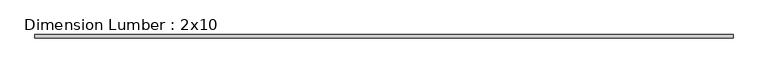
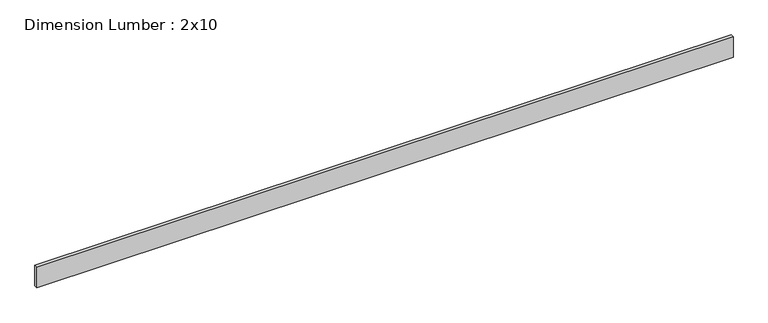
"""IFC4 building model written with IfcOpenShell, lengths in millimetres: beam geometry, Dimension Lumber : 2x10."""

import ifcopenshell
import ifcopenshell.guid

model = None  # the IFC model being written
_history = None  # IfcOwnerHistory: only IFC2X3 demands one
_inside = {}  # id of a spatial element -> (the spatial element, [elements in it])
_under = {}  # id of a project, library or spatial element -> (it, [spatial elements below it])
_declared = {}  # id of a project -> (the project, [libraries it declares])
_typed = {}  # id of a type object -> (the type object, [elements of that type])
_made_of = {}  # id of a material, layer set ... -> (it, [elements and type objects made of it])


def new_model(schema):
    """Start an empty IFC model of exactly this schema.

    Asked for "IFC4X3", IfcOpenShell would pick the latest addendum, in which some entities
    have other attributes; the version numbers below select the first issue.
    IFC2X3 requires an IfcOwnerHistory on every rooted entity: one is made here for all.
    """
    global model, _history
    if schema == "IFC4X3":
        model = ifcopenshell.file(schema_version=(4, 3, 0, 0))
    else:
        model = ifcopenshell.file(schema=schema)
    _inside.clear()
    _under.clear()
    _declared.clear()
    _typed.clear()
    _made_of.clear()
    _history = None
    if model.schema == "IFC2X3":
        org = make("IfcOrganization", Name="unknown")
        user = make(
            "IfcPersonAndOrganization",
            ThePerson=make("IfcPerson", FamilyName="unknown"),
            TheOrganization=org,
        )
        app = make(
            "IfcApplication",
            ApplicationDeveloper=org,
            Version="unknown",
            ApplicationFullName="unknown",
            ApplicationIdentifier="unknown",
        )
        _history = make(
            "IfcOwnerHistory",
            OwningUser=user,
            OwningApplication=app,
            ChangeAction="ADDED",
            CreationDate=0,
        )
    return model


def make(cls, **values):
    """One entity of the class cls with the attributes given. An attribute that is None is left unset."""
    return model.create_entity(
        cls, **{name: value for name, value in values.items() if value is not None}
    )


def rooted(cls, **values):
    """An entity with a GlobalId (a new one), such as an element, a storey or a relation."""
    return make(cls, GlobalId=ifcopenshell.guid.new(), OwnerHistory=_history, **values)


def si_unit(unit_type, name, prefix=None):
    """IfcSIUnit, for example si_unit("LENGTHUNIT", "METRE", prefix="MILLI")."""
    return make("IfcSIUnit", UnitType=unit_type, Prefix=prefix, Name=name)


def assignment(units):
    """IfcUnitAssignment: the units of a project."""
    return None if units is None else make("IfcUnitAssignment", Units=units)


def point(xyz):
    """IfcCartesianPoint."""
    return None if xyz is None else make("IfcCartesianPoint", Coordinates=xyz)


def direction(xyz):
    """IfcDirection."""
    return None if xyz is None else make("IfcDirection", DirectionRatios=xyz)


def frame(location, z_axis=None, x_axis=None):
    """IfcAxis2Placement3D, a coordinate frame: its origin and axes. An axis left out is left unset."""
    return make(
        "IfcAxis2Placement3D",
        Location=point(location),
        Axis=direction(z_axis),
        RefDirection=direction(x_axis),
    )


def origin():
    """The frame at (0, 0, 0) with its axes left unset."""
    return frame((0.0, 0.0, 0.0))


def place(relative_to, where):
    """IfcLocalPlacement: puts the frame where relative to a parent placement (None: the world)."""
    return make(
        "IfcLocalPlacement", PlacementRelTo=relative_to, RelativePlacement=where
    )


def context(
    kind, dimensions, precision=None, world=None, true_north=None, identifier=None
):
    """IfcGeometricRepresentationContext, for example the 3D "Model" context."""
    return make(
        "IfcGeometricRepresentationContext",
        ContextIdentifier=identifier,
        ContextType=kind,
        CoordinateSpaceDimension=dimensions,
        Precision=precision,
        WorldCoordinateSystem=world,
        TrueNorth=true_north,
    )


def project(units=None, contexts=None):
    """IfcProject with its units and contexts."""
    return rooted(
        "IfcProject",
        Name="project",
        RepresentationContexts=contexts,
        UnitsInContext=assignment(units),
    )


def spatial(cls, under=None, at=None, **own):
    """A site, building, storey or space (cls), placed at a placement, below another one or the project."""
    s = rooted(cls, ObjectPlacement=at, **own)
    if under is not None:
        _under.setdefault(under.id(), (under, []))[1].append(s)
    return s


def polyline(points):
    """IfcPolyline through the points."""
    return make("IfcPolyline", Points=[point(p) for p in points])


def outline(outer, holes=None, kind="AREA"):
    """IfcArbitraryClosedProfileDef: a profile drawn as a closed curve; with holes, ...WithVoids."""
    if holes is None:
        return make("IfcArbitraryClosedProfileDef", ProfileType=kind, OuterCurve=outer)
    return make(
        "IfcArbitraryProfileDefWithVoids",
        ProfileType=kind,
        OuterCurve=outer,
        InnerCurves=holes,
    )


def extrude(swept, where, along, depth):
    """IfcExtrudedAreaSolid: the profile swept, set in the frame where, extruded along a direction by depth."""
    return make(
        "IfcExtrudedAreaSolid",
        SweptArea=swept,
        Position=where,
        ExtrudedDirection=direction(along),
        Depth=depth,
    )


def shape(context_of_items, identifier, shape_type, items):
    """IfcShapeRepresentation: the items that make up one representation, for example the "Body"."""
    return make(
        "IfcShapeRepresentation",
        ContextOfItems=context_of_items,
        RepresentationIdentifier=identifier,
        RepresentationType=shape_type,
        Items=items,
    )


def source(mapping_origin, context_of_items, identifier, shape_type, items):
    """IfcRepresentationMap: a shape defined once, which mapped items show again and again."""
    return make(
        "IfcRepresentationMap",
        MappingOrigin=mapping_origin,
        MappedRepresentation=shape(context_of_items, identifier, shape_type, items),
    )


def transform(
    local_origin,
    x_axis=None,
    y_axis=None,
    z_axis=None,
    scale=None,
    scale2=None,
    scale3=None,
    uniform=True,
):
    """IfcCartesianTransformationOperator3D, or its non-uniform kind. x_axis, y_axis, z_axis: its Axis1, 2, 3."""
    if uniform:
        return make(
            "IfcCartesianTransformationOperator3D",
            Axis1=direction(x_axis),
            Axis2=direction(y_axis),
            LocalOrigin=point(local_origin),
            Scale=scale,
            Axis3=direction(z_axis),
        )
    return make(
        "IfcCartesianTransformationOperator3DnonUniform",
        Axis1=direction(x_axis),
        Axis2=direction(y_axis),
        LocalOrigin=point(local_origin),
        Scale=scale,
        Axis3=direction(z_axis),
        Scale2=scale2,
        Scale3=scale3,
    )


def mapped(mapping_source, mapping_target):
    """IfcMappedItem: shows the shape of a source again, moved by a transform."""
    return make(
        "IfcMappedItem", MappingSource=mapping_source, MappingTarget=mapping_target
    )


def made_of(thing, what):
    """Note that an element or type object is made of a material, layer set ...; save() writes the relation."""
    if what is not None:
        _made_of.setdefault(what.id(), (what, []))[1].append(thing)
    return thing


def element(
    cls,
    number,
    at=None,
    inside=None,
    cuts=None,
    type_object=None,
    material=None,
    context=None,
    identifier="Body",
    shape_type=None,
    held_by="IfcProductDefinitionShape",
    body=None,
    shapes=None,
    **own,
):
    """One element of the class cls, such as IfcWall. Its Tag is "e" and its number.

    at: its placement. inside: the storey or other place that contains it. cuts: it is an
    opening in that element (IfcRelVoidsElement). A single representation is given by context,
    identifier, shape_type and body (its items); several are given by shapes. held_by: the class
    of the entity that holds the representations. save() writes the other relations.
    """
    e = rooted(cls, Tag="e%d" % number, ObjectPlacement=at, **own)
    if body is not None:
        shapes = [shape(context, identifier, shape_type, body)]
    if shapes is not None:
        e.Representation = make(held_by, Representations=shapes)
    if inside is not None:
        _inside.setdefault(inside.id(), (inside, []))[1].append(e)
    if cuts is not None:
        rooted(
            "IfcRelVoidsElement", RelatingBuildingElement=cuts, RelatedOpeningElement=e
        )
    if type_object is not None:
        _typed.setdefault(type_object.id(), (type_object, []))[1].append(e)
    return made_of(e, material)


def aggregate(whole, parts):
    """IfcRelAggregates: a whole, such as a stair, and the parts it consists of."""
    return rooted("IfcRelAggregates", RelatingObject=whole, RelatedObjects=parts)


def save(model, path):
    """Write the relations noted so far, then the file.

    IfcRelAggregates (storeys below a building ...), IfcRelContainedInSpatialStructure (elements
    in a storey), IfcRelDefinesByType, IfcRelAssociatesMaterial and IfcRelDeclares: one each for
    every whole, place, type object, material and project.
    """
    for whole, parts in _under.values():
        aggregate(whole, parts)
    for where, things in _inside.values():
        rooted(
            "IfcRelContainedInSpatialStructure",
            RelatedElements=things,
            RelatingStructure=where,
        )
    for kind, things in _typed.values():
        rooted("IfcRelDefinesByType", RelatedObjects=things, RelatingType=kind)
    for what, things in _made_of.values():
        rooted("IfcRelAssociatesMaterial", RelatedObjects=things, RelatingMaterial=what)
    for by, libraries in _declared.values():
        rooted("IfcRelDeclares", RelatingContext=by, RelatedDefinitions=libraries)
    model.write(path)


def dimension_lumber_2x10_c92a85eb(model_context):
    return source(origin(), model_context, "Body", "SweptSolid", [
        extrude(outline(polyline([(3844.925, 19.05), (3844.925, -19.05), (-3753.860977, -19.05), (-3753.860977, 19.05), (3844.925, 19.05)])), frame((0.0, 0.0, -117.475), z_axis=(0.0, 0.0, 1.0), x_axis=(1.0, 0.0, 0.0)), (0.0, 0.0, 1.0), 234.95),
    ])


if __name__ == "__main__":
    model = new_model("IFC4")
    model_context = context("Model", 3, world=origin())
    ifc_project = project(units=[si_unit("LENGTHUNIT", "METRE", prefix="MILLI")], contexts=[model_context])
    site = spatial("IfcSite", under=ifc_project)
    building = spatial("IfcBuilding", under=site)
    placement = place(None, origin())
    dimension_lumber_2x10_shape = dimension_lumber_2x10_c92a85eb(model_context)
    element("IfcBeam", 1, ObjectType="Dimension Lumber : 2x10", at=placement, inside=building, context=model_context, shape_type="MappedRepresentation", body=[
        mapped(dimension_lumber_2x10_shape, transform((0.0, 0.0, 0.0), x_axis=(1.0, 0.0, 0.0), y_axis=(0.0, 1.0, 0.0), z_axis=(0.0, 0.0, 1.0))),
    ])
    save(model, "model.ifc")
